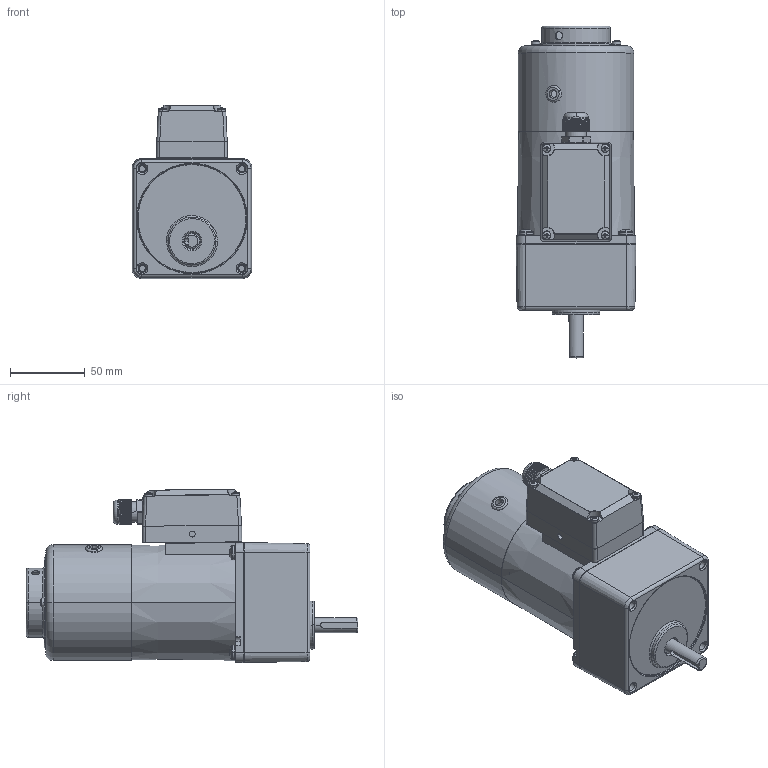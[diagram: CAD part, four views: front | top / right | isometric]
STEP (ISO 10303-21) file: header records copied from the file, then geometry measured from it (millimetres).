
FILE_DESCRIPTION (( 'STEP AP203' ), '1' );
FILE_NAME ('4RK25RGN-CMT(4GN3K-200K).STEP', '2022-10-28T05:28:41', ( 'Windows User' ), ( 'P R C' ), 'SwSTEP 2.0', 'SolidWorks 2019', '' );
FILE_SCHEMA (( 'CONFIG_CONTROL_DESIGN' ));
Length unit declared in the file: millimetre
Products named in the file (24): 葩璃 (2) ^_70TSZ_4RK25RGN-CMT(4GN3K-200K)(2)_4RK25RGN-CMT(4GN3K-200K); ^_70TSZ_4RK25RGN-CMT(4GN3K-200K)(2)_4RK25RGN-CMT(4GN3K-200K); 葩璃 (4) ^_80SCZ.STEP_4RK25GN-CMT.STEP_4RK25GN-CMT_4RK25GN-CMT(4GN3K-200K)_4RK25RGN-CMT(4GN3K-200K)(2)_4RK25RGN-CMT(4GN3K-200K); 4RK25GN-CMT^4RK25GN-CMT(4GN3K-200K)_4RK25RGN-CMT(4GN3K-200K)(2)_4RK25RGN-CMT(4GN3K-200K); 4RK25RGN-CMT(4GN3K-200K); ^80SCZ.STEP_4RK25GN-CMT.STEP_4RK25GN-CMT_4RK25GN-CMT(4GN3K-200K)_4RK25RGN-CMT(4GN3K-200K)(2)_4RK25RGN-CMT(4GN3K-200K); ^70TSJXHG.STEP.STEP_4RK25GN-CMT.STEP_4RK25GN-CMT_4RK25GN-CMT(4GN3K-200K)_4RK25RGN-CMT(4GN3K-200K)(2)_4RK25RGN-CMT(4GN3K-200K); 葩璃 (2) ^_70TSJXHG.STEP.STEP_4RK25GN-CMT.STEP_4RK25GN-CMT_4RK25GN-CMT(4GN3K-200K)_4RK25RGN-CMT(4GN3K-200K)(2)_4RK25RGN-CMT(4GN3K-200K); ^_70TSJXHG.STEP.STEP_4RK25GN-CMT.STEP_4RK25GN-CMT_4RK25GN-CMT(4GN3K-200K)_4RK25RGN-CMT(4GN3K-200K)(2)_4RK25RGN-CMT(4GN3K-200K); 4RK25RGN-CMT(4GN3K-200K)(2)^4RK25RGN-CMT(4GN3K-200K); 葩璃 (3) ^_70TSJXHG.STEP.STEP_4RK25GN-CMT.STEP_4RK25GN-CMT_4RK25GN-CMT(4GN3K-200K)_4RK25RGN-CMT(4GN3K-200K)(2)_4RK25RGN-CMT(4GN3K-200K); 葩璃 (3) ^_70TSZ_4RK25RGN-CMT(4GN3K-200K)(2)_4RK25RGN-CMT(4GN3K-200K); 70TSZ^4RK25RGN-CMT(4GN3K-200K)(2)_4RK25RGN-CMT(4GN3K-200K); 4RK25GN-CMT(4GN3K-200K)^4RK25RGN-CMT(4GN3K-200K)(2)_4RK25RGN-CMT(4GN3K-200K); ^_80SCZ.STEP_4RK25GN-CMT.STEP_4RK25GN-CMT_4RK25GN-CMT(4GN3K-200K)_4RK25RGN-CMT(4GN3K-200K)(2)_4RK25RGN-CMT(4GN3K-200K); ^70TSZ_4RK25RGN-CMT(4GN3K-200K)(2)_4RK25RGN-CMT(4GN3K-200K); M5^4RK25GN-CMT(4GN3K-200K)_4RK25RGN-CMT(4GN3K-200K)(2)_4RK25RGN-CMT(4GN3K-200K); 4RK25GN-CMT.STEP^4RK25GN-CMT_4RK25GN-CMT(4GN3K-200K)_4RK25RGN-CMT(4GN3K-200K)(2)_4RK25RGN-CMT(4GN3K-200K); 80TSJXHJK.STEP^4RK25GN-CMT.STEP_4RK25GN-CMT_4RK25GN-CMT(4GN3K-200K)_4RK25RGN-CMT(4GN3K-200K)(2)_4RK25RGN-CMT(4GN3K-200K); 葩璃 (2) ^_80SCZ.STEP_4RK25GN-CMT.STEP_4RK25GN-CMT_4RK25GN-CMT(4GN3K-200K)_4RK25RGN-CMT(4GN3K-200K)(2)_4RK25RGN-CMT(4GN3K-200K); 70TSJXHG.STEP.STEP^4RK25GN-CMT.STEP_4RK25GN-CMT_4RK25GN-CMT(4GN3K-200K)_4RK25RGN-CMT(4GN3K-200K)(2)_4RK25RGN-CMT(4GN3K-200K); 4GN3K-200K; 葩璃 (3) ^_80SCZ.STEP_4RK25GN-CMT.STEP_4RK25GN-CMT_4RK25GN-CMT(4GN3K-200K)_4RK25RGN-CMT(4GN3K-200K)(2)_4RK25RGN-CMT(4GN3K-200K); 80SCZ.STEP^4RK25GN-CMT.STEP_4RK25GN-CMT_4RK25GN-CMT(4GN3K-200K)_4RK25RGN-CMT(4GN3K-200K)(2)_4RK25RGN-CMT(4GN3K-200K)
Assembly tree (29 placements, depth 8):
  4RK25RGN-CMT(4GN3K-200K)
    4RK25RGN-CMT(4GN3K-200K)(2)^4RK25RGN-CMT(4GN3K-200K)
      4RK25GN-CMT(4GN3K-200K)^4RK25RGN-CMT(4GN3K-200K)(2)_4RK25RGN-CMT(4GN3K-200K)
        4RK25GN-CMT^4RK25GN-CMT(4GN3K-200K)_4RK25RGN-CMT(4GN3K-200K)(2)_4RK25RGN-CMT(4GN3K-200K)
          4RK25GN-CMT.STEP^4RK25GN-CMT_4RK25GN-CMT(4GN3K-200K)_4RK25RGN-CMT(4GN3K-200K)(2)_4RK25RGN-CMT(4GN3K-200K)
            70TSJXHG.STEP.STEP^4RK25GN-CMT.STEP_4RK25GN-CMT_4RK25GN-CMT(4GN3K-200K)_4RK25RGN-CMT(4GN3K-200K)(2)_4RK25RGN-CMT(4GN3K-200K)
              ^70TSJXHG.STEP.STEP_4RK25GN-CMT.STEP_4RK25GN-CMT_4RK25GN-CMT(4GN3K-200K)_4RK25RGN-CMT(4GN3K-200K)(2)_4RK25RGN-CMT(4GN3K-200K)
                ^_70TSJXHG.STEP.STEP_4RK25GN-CMT.STEP_4RK25GN-CMT_4RK25GN-CMT(4GN3K-200K)_4RK25RGN-CMT(4GN3K-200K)(2)_4RK25RGN-CMT(4GN3K-200K)
                葩璃 (2) ^_70TSJXHG.STEP.STEP_4RK25GN-CMT.STEP_4RK25GN-CMT_4RK25GN-CMT(4GN3K-200K)_4RK25RGN-CMT(4GN3K-200K)(2)_4RK25RGN-CMT(4GN3K-200K)
                葩璃 (3) ^_70TSJXHG.STEP.STEP_4RK25GN-CMT.STEP_4RK25GN-CMT_4RK25GN-CMT(4GN3K-200K)_4RK25RGN-CMT(4GN3K-200K)(2)_4RK25RGN-CMT(4GN3K-200K)  x4
            80SCZ.STEP^4RK25GN-CMT.STEP_4RK25GN-CMT_4RK25GN-CMT(4GN3K-200K)_4RK25RGN-CMT(4GN3K-200K)(2)_4RK25RGN-CMT(4GN3K-200K)
              ^80SCZ.STEP_4RK25GN-CMT.STEP_4RK25GN-CMT_4RK25GN-CMT(4GN3K-200K)_4RK25RGN-CMT(4GN3K-200K)(2)_4RK25RGN-CMT(4GN3K-200K)
                ^_80SCZ.STEP_4RK25GN-CMT.STEP_4RK25GN-CMT_4RK25GN-CMT(4GN3K-200K)_4RK25RGN-CMT(4GN3K-200K)(2)_4RK25RGN-CMT(4GN3K-200K)
                葩璃 (2) ^_80SCZ.STEP_4RK25GN-CMT.STEP_4RK25GN-CMT_4RK25GN-CMT(4GN3K-200K)_4RK25RGN-CMT(4GN3K-200K)(2)_4RK25RGN-CMT(4GN3K-200K)
                葩璃 (3) ^_80SCZ.STEP_4RK25GN-CMT.STEP_4RK25GN-CMT_4RK25GN-CMT(4GN3K-200K)_4RK25RGN-CMT(4GN3K-200K)(2)_4RK25RGN-CMT(4GN3K-200K)
                葩璃 (4) ^_80SCZ.STEP_4RK25GN-CMT.STEP_4RK25GN-CMT_4RK25GN-CMT(4GN3K-200K)_4RK25RGN-CMT(4GN3K-200K)(2)_4RK25RGN-CMT(4GN3K-200K)
            80TSJXHJK.STEP^4RK25GN-CMT.STEP_4RK25GN-CMT_4RK25GN-CMT(4GN3K-200K)_4RK25RGN-CMT(4GN3K-200K)(2)_4RK25RGN-CMT(4GN3K-200K)
        M5^4RK25GN-CMT(4GN3K-200K)_4RK25RGN-CMT(4GN3K-200K)(2)_4RK25RGN-CMT(4GN3K-200K)  x4
      70TSZ^4RK25RGN-CMT(4GN3K-200K)(2)_4RK25RGN-CMT(4GN3K-200K)
        ^70TSZ_4RK25RGN-CMT(4GN3K-200K)(2)_4RK25RGN-CMT(4GN3K-200K)
          ^_70TSZ_4RK25RGN-CMT(4GN3K-200K)(2)_4RK25RGN-CMT(4GN3K-200K)
          葩璃 (2) ^_70TSZ_4RK25RGN-CMT(4GN3K-200K)(2)_4RK25RGN-CMT(4GN3K-200K)
          葩璃 (3) ^_70TSZ_4RK25RGN-CMT(4GN3K-200K)(2)_4RK25RGN-CMT(4GN3K-200K)
    4GN3K-200K
Bounding box: 80 x 221.3 x 115.44 mm (x, y, z)
Volume: 575462.9 mm3; surface area: 165479.3 mm2
Topology: 19 solids, 20 shells, 2345 faces, 6085 edges, 3793 vertices
Faces by surface type: cone 1071, cylinder 757, plane 379, torus 85, sphere 32, bspline 21
Entity records: 52336 total; most frequent: CARTESIAN_POINT 13664, DIRECTION 8222, ORIENTED_EDGE 7360, EDGE_CURVE 3680, AXIS2_PLACEMENT_3D 3425, VERTEX_POINT 2326, CIRCLE 1968, EDGE_LOOP 1520
